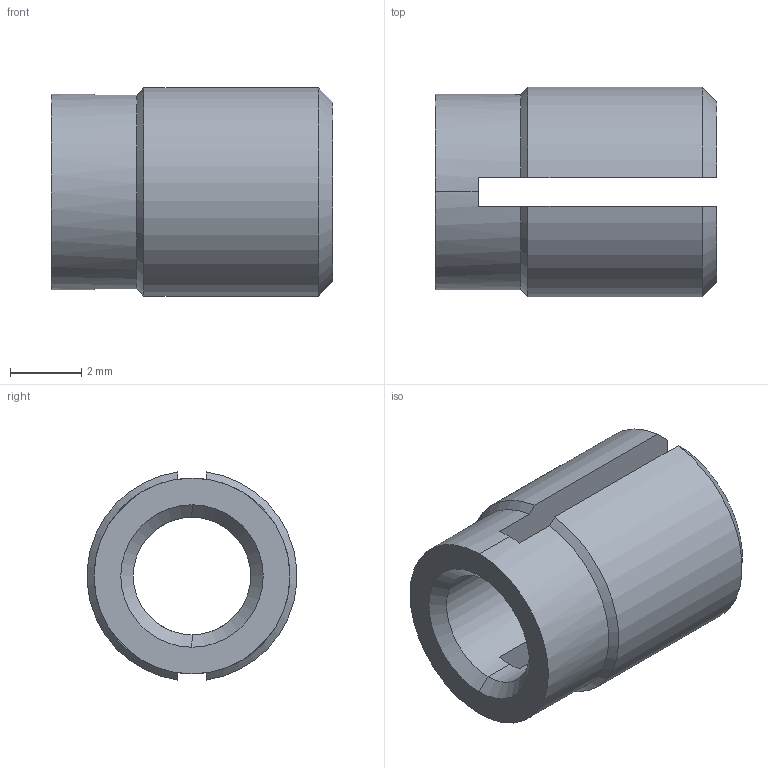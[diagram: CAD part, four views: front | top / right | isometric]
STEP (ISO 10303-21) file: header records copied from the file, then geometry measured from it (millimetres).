
FILE_DESCRIPTION (( 'STEP AP203' ), '1' );
FILE_NAME ('FSUK-EXP-M04-S.STEP', '2021-04-15T13:44:43', ( '' ), ( '' ), 'SwSTEP 2.0', 'SolidWorks 2021', '' );
FILE_SCHEMA (( 'CONFIG_CONTROL_DESIGN' ));
Length unit declared in the file: millimetre
Products named in the file (1): FSUK-EXP-M04-S
Bounding box: 7.9 x 5.88 x 5.85 mm (x, y, z)
Volume: 123.3 mm3; surface area: 264.7 mm2
Topology: 1 solids, 1 shells, 23 faces, 64 edges, 42 vertices
Faces by surface type: plane 9, cone 8, cylinder 6
Entity records: 841 total; most frequent: CARTESIAN_POINT 166, ORIENTED_EDGE 128, DIRECTION 126, EDGE_CURVE 64, AXIS2_PLACEMENT_3D 50, VERTEX_POINT 42, VECTOR 26, CIRCLE 26
